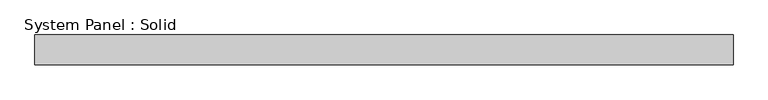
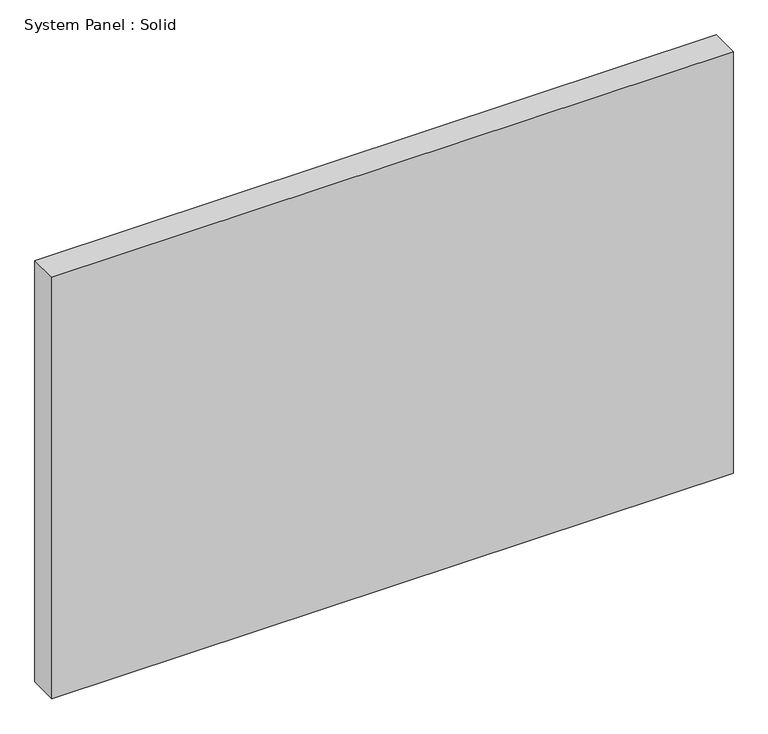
"""IFC4 building model written with IfcOpenShell, lengths in millimetres: plate geometry, System Panel : Solid."""

from ifc_helpers import new_model, si_unit, origin, origin_with_axes, place, context, project, spatial, polyline, outline, extrude, source, transform, mapped, element, save


def system_panel_solid_c925a93a(model_context):
    return source(origin(), model_context, "Body", "SweptSolid", [
        extrude(outline(polyline([(742.95, -19.05), (-742.95, -19.05), (-742.95, 44.45), (742.95, 44.45), (742.95, -19.05)])), origin_with_axes(), (0.0, 0.0, 1.0), 971.55),
    ])


if __name__ == "__main__":
    model = new_model("IFC4")
    model_context = context("Model", 3, world=origin())
    ifc_project = project(units=[si_unit("LENGTHUNIT", "METRE", prefix="MILLI")], contexts=[model_context])
    site = spatial("IfcSite", under=ifc_project)
    building = spatial("IfcBuilding", under=site)
    placement = place(None, origin())
    system_panel_solid_shape = system_panel_solid_c925a93a(model_context)
    element("IfcPlate", 1, ObjectType="System Panel : Solid", at=placement, inside=building, context=model_context, shape_type="MappedRepresentation", body=[
        mapped(system_panel_solid_shape, transform((0.0, 0.0, 0.0), x_axis=(1.0, 0.0, 0.0), y_axis=(0.0, 1.0, 0.0), z_axis=(0.0, 0.0, 1.0))),
    ])
    save(model, "model.ifc")
